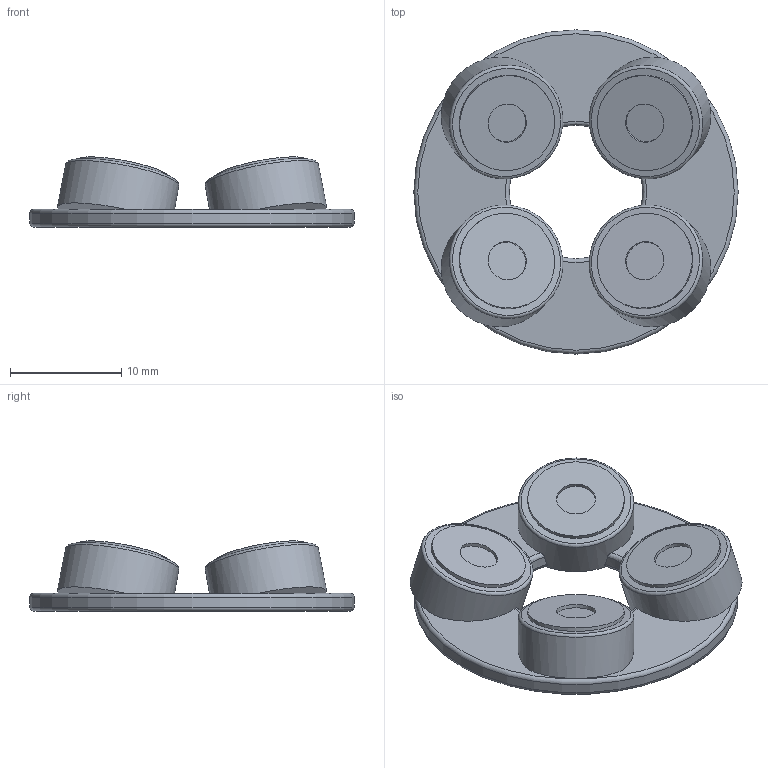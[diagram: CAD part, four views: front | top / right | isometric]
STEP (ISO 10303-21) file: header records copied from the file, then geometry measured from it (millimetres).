
FILE_DESCRIPTION(('Open CASCADE Model'),'2;1');
FILE_NAME('Open CASCADE Shape Model','2026-10-02T16:27:10',('Author'),( 'Open CASCADE'),'Open CASCADE STEP processor 7.9','Open CASCADE 7.9' ,'Unknown');
FILE_SCHEMA(('AUTOMOTIVE_DESIGN { 1 0 10303 214 1 1 1 1 }'));
Length unit declared in the file: millimetre
Products named in the file (10): OMI_MAGNET_CARRIER_FIT_PROTOTYPE; carrier_body; retainer_1; REFERENCE_ONLY_magnet_1; retainer_2; REFERENCE_ONLY_magnet_2; retainer_3; REFERENCE_ONLY_magnet_3; retainer_4; REFERENCE_ONLY_magnet_4
Assembly tree (9 placements, depth 2):
  OMI_MAGNET_CARRIER_FIT_PROTOTYPE
    carrier_body
    retainer_1
    REFERENCE_ONLY_magnet_1
    retainer_2
    REFERENCE_ONLY_magnet_2
    retainer_3
    REFERENCE_ONLY_magnet_3
    retainer_4
    REFERENCE_ONLY_magnet_4
Bounding box: 29.19 x 29.19 x 6.33 mm (x, y, z)
Volume: 1886.4 mm3; surface area: 3505.2 mm2
Topology: 9 solids, 9 shells, 137 faces, 303 edges, 200 vertices
Faces by surface type: cylinder 57, plane 42, bspline 24, torus 14
Full cylindrical faces by diameter (mm): 1.8 x4, 3.5 x4, 4 x4, 5.3 x8, 6.9 x4, 7.3 x4, 8.7 x4, 10.4 x4, 29.192 x1
Entity records: 24968 total; most frequent: CARTESIAN_POINT 19178, DIRECTION 840, ORIENTED_EDGE 606, PCURVE 606, DEFINITIONAL_REPRESENTATION 606, B_SPLINE_CURVE_WITH_KNOTS 404, EDGE_CURVE 303, LINE 289
